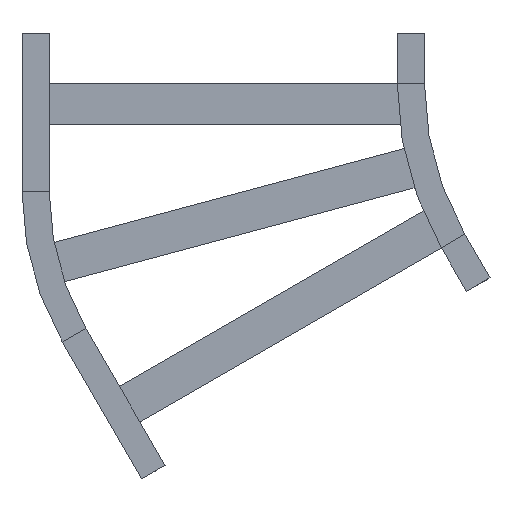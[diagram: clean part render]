
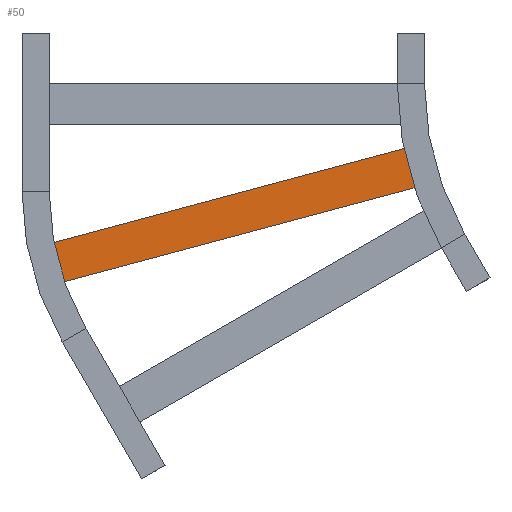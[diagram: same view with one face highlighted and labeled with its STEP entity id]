
A CAD part, front view. The second image highlights one B-rep face of the part: STEP entity #50.
In plain terms, the highlighted planar face has unit normal (0, -1, 0).
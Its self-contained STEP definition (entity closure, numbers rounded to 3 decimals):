
#2 = EDGE_CURVE ( 'NONE', #789, #609, #1079, .T. ) ;
#8 = FACE_OUTER_BOUND ( 'NONE', #162, .T. ) ;
#9 = ORIENTED_EDGE ( 'NONE', *, *, #1468, .T. ) ;
#50 = ADVANCED_FACE ( 'NONE', ( #8 ), #325, .F. ) ;
#120 = EDGE_CURVE ( 'NONE', #1107, #609, #1664, .T. ) ;
#136 = LINE ( 'NONE', #413, #1614 ) ;
#162 = EDGE_LOOP ( 'NONE', ( #538, #567, #416, #9 ) ) ;
#177 = CARTESIAN_POINT ( 'NONE',  ( 204.5, 0., 20.25 ) ) ;
#190 = CARTESIAN_POINT ( 'NONE',  ( 204.5, 0., -20.25 ) ) ;
#243 = CARTESIAN_POINT ( 'NONE',  ( 204.5, 0., -20.25 ) ) ;
#248 = EDGE_CURVE ( 'NONE', #613, #1107, #136, .T. ) ;
#325 = PLANE ( 'NONE',  #401 ) ;
#401 = AXIS2_PLACEMENT_3D ( 'NONE', #177, #473, #1184 ) ;
#407 = DIRECTION ( 'NONE',  ( 0., 0., -1. ) ) ;
#411 = CARTESIAN_POINT ( 'NONE',  ( -204.5, 0., -20.25 ) ) ;
#413 = CARTESIAN_POINT ( 'NONE',  ( 204.5, 0., 20.25 ) ) ;
#416 = ORIENTED_EDGE ( 'NONE', *, *, #248, .F. ) ;
#437 = CARTESIAN_POINT ( 'NONE',  ( -204.5, 0., 20.25 ) ) ;
#442 = LINE ( 'NONE', #1145, #920 ) ;
#473 = DIRECTION ( 'NONE',  ( 0., 1., 0. ) ) ;
#538 = ORIENTED_EDGE ( 'NONE', *, *, #2, .T. ) ;
#566 = CARTESIAN_POINT ( 'NONE',  ( 204.5, 0., 20.25 ) ) ;
#567 = ORIENTED_EDGE ( 'NONE', *, *, #120, .F. ) ;
#609 = VERTEX_POINT ( 'NONE', #411 ) ;
#613 = VERTEX_POINT ( 'NONE', #566 ) ;
#789 = VERTEX_POINT ( 'NONE', #437 ) ;
#861 = VECTOR ( 'NONE', #1493, 1000. ) ;
#920 = VECTOR ( 'NONE', #1589, 1000. ) ;
#1079 = LINE ( 'NONE', #1359, #861 ) ;
#1107 = VERTEX_POINT ( 'NONE', #190 ) ;
#1109 = DIRECTION ( 'NONE',  ( -1., 0., 0. ) ) ;
#1145 = CARTESIAN_POINT ( 'NONE',  ( 204.5, 0., 20.25 ) ) ;
#1184 = DIRECTION ( 'NONE',  ( 0., 0., 1. ) ) ;
#1353 = VECTOR ( 'NONE', #1109, 1000. ) ;
#1359 = CARTESIAN_POINT ( 'NONE',  ( -204.5, 0., 20.25 ) ) ;
#1468 = EDGE_CURVE ( 'NONE', #613, #789, #442, .T. ) ;
#1493 = DIRECTION ( 'NONE',  ( 0., 0., -1. ) ) ;
#1589 = DIRECTION ( 'NONE',  ( -1., 0., 0. ) ) ;
#1614 = VECTOR ( 'NONE', #407, 1000. ) ;
#1664 = LINE ( 'NONE', #243, #1353 ) ;
